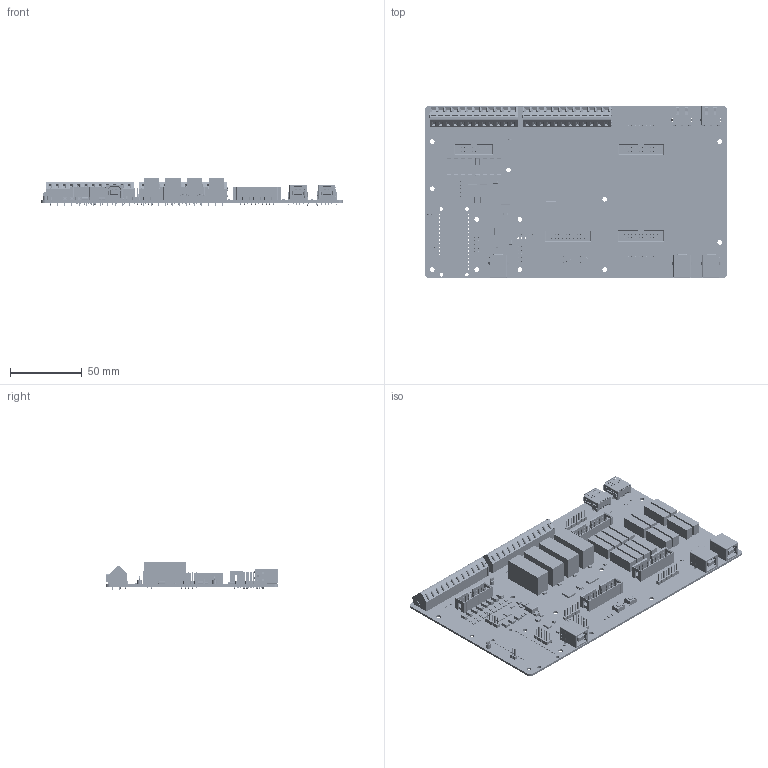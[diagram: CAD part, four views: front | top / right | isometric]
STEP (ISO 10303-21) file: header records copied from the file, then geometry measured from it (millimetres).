
FILE_DESCRIPTION(/* description */ (''),/* implementation_level */ '2;1');
FILE_NAME(/* name */ 'D:\systart\relay-board\vorgaben\Relay-Board-RDP_V100_Shrink.stp',/* time_stamp */ '2020-05-20T17:17:22+02:00',/* author */ ('axel'),/* organization */ (''),/* preprocessor_version */ 'ST-DEVELOPER v18',/* originating_system */ 'Autodesk Inventor 2020',/* authorisation */ '');
FILE_SCHEMA (('AUTOMOTIVE_DESIGN { 1 0 10303 214 3 1 1 }'));
Products named in the file (1): Relay-Board-RDP_V100_Shrinkwrap_1
Bounding box: 210 x 120.03 x 18.94 mm (x, y, z)
Volume: 98974.6 mm3; surface area: 95902.5 mm2
Topology: 18 solids, 26 shells, 11188 faces, 28823 edges, 17717 vertices
Faces by surface type: plane 7805, cylinder 2621, bspline 436, sphere 272, torus 54
Full cylindrical faces by diameter (mm): 0.487 x1, 0.5 x1, 0.562 x2, 0.575 x3, 0.8 x64, 0.85 x24, 0.875 x1, 0.92 x20, 1.1 x204, 1.2 x16, 1.3 x20, 1.4 x2, 1.6 x8, 2.3 x10, 2.5 x4, 3.1 x2, 3.3 x12, 3.5 x2
Entity records: 383061 total; most frequent: CARTESIAN_POINT 98893, ORIENTED_EDGE 57102, DIRECTION 54967, EDGE_CURVE 28555, LINE 22017, VECTOR 22017, VERTEX_POINT 17717, AXIS2_PLACEMENT_3D 16475
